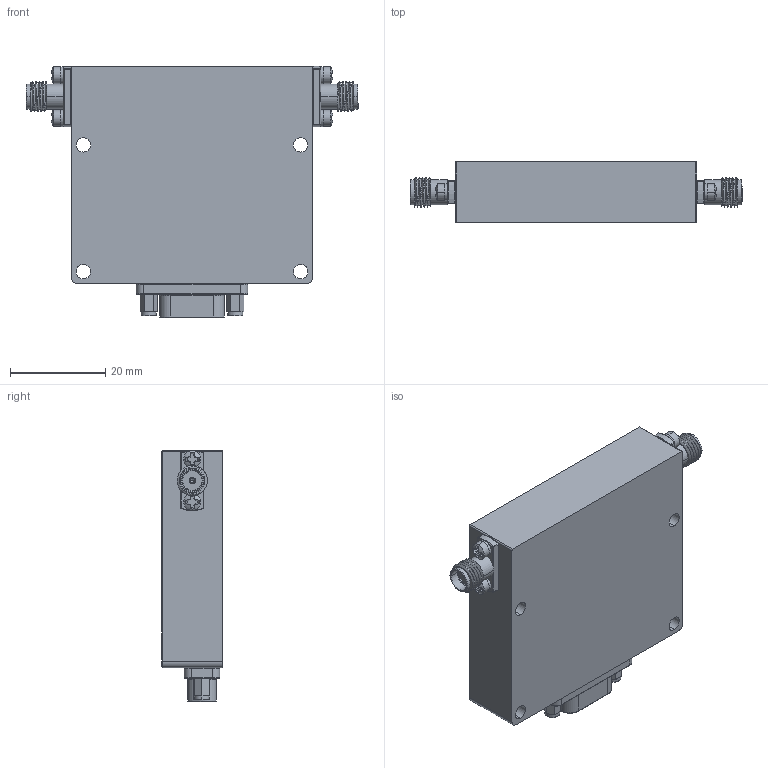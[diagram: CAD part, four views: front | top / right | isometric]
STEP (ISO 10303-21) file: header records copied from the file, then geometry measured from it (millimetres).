
FILE_DESCRIPTION (( 'STEP AP214' ), '1' );
FILE_NAME ('DTA-2G18G-60-CD-2-OPT-1G18G-2.STEP', '2025-09-29T14:41:50', ( '' ), ( '' ), 'SwSTEP 2.0', 'SolidWorks 2024', '' );
FILE_SCHEMA (( 'AUTOMOTIVE_DESIGN' ));
Length unit declared in the file: inch
Products named in the file (1): DTA-2G18G-60-CD-2-OPT-1G18G-2
Bounding box: 69.85 x 12.83 x 52.86 mm (x, y, z)
Volume: 30905.1 mm3; surface area: 14745.4 mm2
Topology: 17 solids, 17 shells, 1383 faces, 4841 edges, 3657 vertices
Faces by surface type: plane 500, cylinder 462, cone 219, bspline 94, torus 84, sphere 24
Entity records: 85849 total; most frequent: CARTESIAN_POINT 30997, ORIENTED_EDGE 9566, DIRECTION 7152, EDGE_CURVE 4783, VERTEX_POINT 3657, AXIS2_PLACEMENT_3D 2565, VECTOR 2022, LINE 2022
